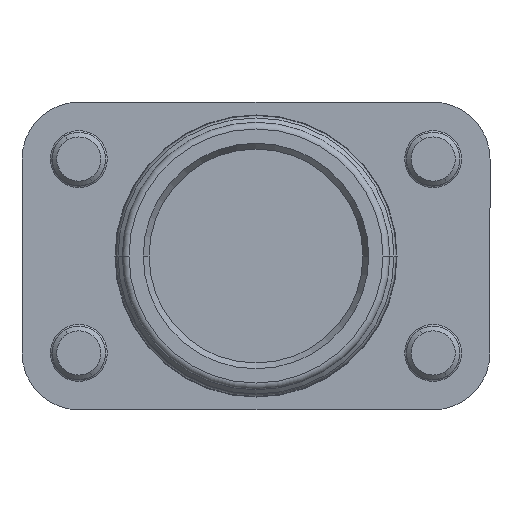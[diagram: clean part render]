
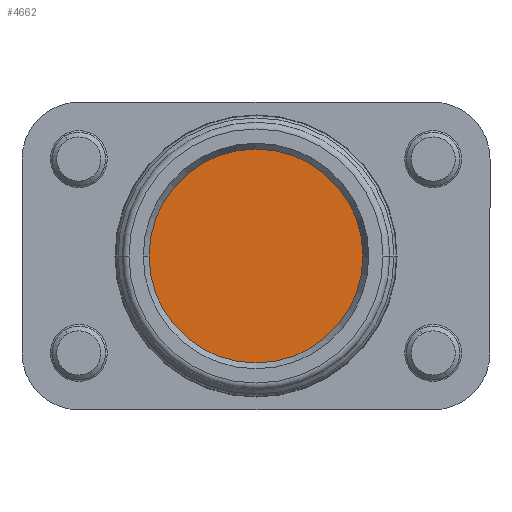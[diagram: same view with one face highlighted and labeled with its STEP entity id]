
A CAD part, front view. The second image highlights one B-rep face of the part: STEP entity #4662.
In plain terms, the highlighted planar face has unit normal (0, -1, 0).
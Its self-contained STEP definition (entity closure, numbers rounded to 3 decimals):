
#289 = CARTESIAN_POINT ( 'NONE',  ( 0., 0., 0. ) ) ;
#964 = CARTESIAN_POINT ( 'NONE',  ( 0., 0., -16. ) ) ;
#2060 = VERTEX_POINT ( 'NONE', #10716 ) ;
#2850 = AXIS2_PLACEMENT_3D ( 'NONE', #6613, #11616, #10529 ) ;
#3021 = FACE_OUTER_BOUND ( 'NONE', #11239, .T. ) ;
#3152 = VERTEX_POINT ( 'NONE', #964 ) ;
#4082 = CIRCLE ( 'NONE', #7477, 16. ) ;
#4261 = DIRECTION ( 'NONE',  ( 0., 0., -1. ) ) ;
#4662 = ADVANCED_FACE ( 'NONE', ( #3021 ), #6872, .T. ) ;
#4855 = CIRCLE ( 'NONE', #2850, 16. ) ;
#5834 = CARTESIAN_POINT ( 'NONE',  ( 0., 0., 0. ) ) ;
#5838 = EDGE_CURVE ( 'NONE', #2060, #3152, #4855, .T. ) ;
#6117 = ORIENTED_EDGE ( 'NONE', *, *, #6137, .T. ) ;
#6137 = EDGE_CURVE ( 'NONE', #3152, #2060, #4082, .T. ) ;
#6613 = CARTESIAN_POINT ( 'NONE',  ( 0., 0., 0. ) ) ;
#6872 = PLANE ( 'NONE',  #7612 ) ;
#7239 = DIRECTION ( 'NONE',  ( 0., -1., 0. ) ) ;
#7418 = DIRECTION ( 'NONE',  ( 0., 0., -1. ) ) ;
#7477 = AXIS2_PLACEMENT_3D ( 'NONE', #289, #7239, #4261 ) ;
#7612 = AXIS2_PLACEMENT_3D ( 'NONE', #5834, #10118, #7418 ) ;
#10118 = DIRECTION ( 'NONE',  ( 0., -1., 0. ) ) ;
#10529 = DIRECTION ( 'NONE',  ( 0., 0., -1. ) ) ;
#10556 = ORIENTED_EDGE ( 'NONE', *, *, #5838, .T. ) ;
#10716 = CARTESIAN_POINT ( 'NONE',  ( 0., 0., 16. ) ) ;
#11239 = EDGE_LOOP ( 'NONE', ( #6117, #10556 ) ) ;
#11616 = DIRECTION ( 'NONE',  ( 0., -1., 0. ) ) ;
